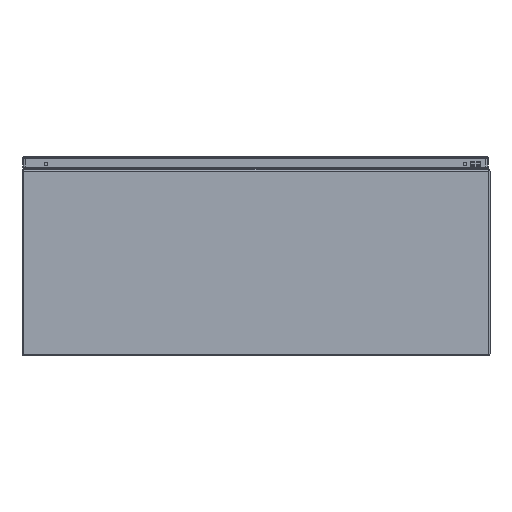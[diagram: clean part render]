
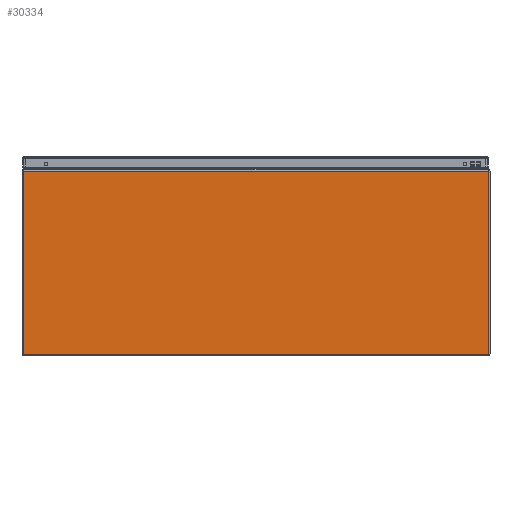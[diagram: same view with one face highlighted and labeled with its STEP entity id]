
A CAD part, front view. The second image highlights one B-rep face of the part: STEP entity #30334.
In plain terms, the highlighted planar face has unit normal (0, -1, 0).
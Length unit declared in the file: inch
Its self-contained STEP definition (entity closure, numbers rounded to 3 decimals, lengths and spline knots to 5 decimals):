
#75 = LINE ( 'NONE', #27523, #84 ) ;
#77 = LINE ( 'NONE', #27472, #86 ) ;
#79 = VECTOR ( 'NONE', #27492, 39.37008 ) ;
#80 = LINE ( 'NONE', #27514, #79 ) ;
#81 = VECTOR ( 'NONE', #27474, 39.37008 ) ;
#82 = LINE ( 'NONE', #27489, #81 ) ;
#84 = VECTOR ( 'NONE', #27469, 39.37008 ) ;
#86 = VECTOR ( 'NONE', #27463, 39.37008 ) ;
#6312 = FACE_OUTER_BOUND ( 'NONE', #7162, .T. ) ;
#7162 = EDGE_LOOP ( 'NONE', ( #19236, #19234, #19232, #19230 ) ) ;
#14422 = CARTESIAN_POINT ( 'NONE',  ( -14.921, 0., 0.08 ) ) ;
#14431 = CARTESIAN_POINT ( 'NONE',  ( 14.921, 0., 0.08 ) ) ;
#14440 = CARTESIAN_POINT ( 'NONE',  ( -14.921, 0., 11.838 ) ) ;
#14483 = CARTESIAN_POINT ( 'NONE',  ( 14.921, 0., 11.838 ) ) ;
#19230 = ORIENTED_EDGE ( 'NONE', *, *, #23660, .T. ) ;
#19232 = ORIENTED_EDGE ( 'NONE', *, *, #23656, .T. ) ;
#19234 = ORIENTED_EDGE ( 'NONE', *, *, #23658, .F. ) ;
#19236 = ORIENTED_EDGE ( 'NONE', *, *, #23659, .F. ) ;
#23656 = EDGE_CURVE ( 'NONE', #41222, #41161, #80, .T. ) ;
#23658 = EDGE_CURVE ( 'NONE', #41222, #41146, #82, .T. ) ;
#23659 = EDGE_CURVE ( 'NONE', #41146, #41131, #75, .T. ) ;
#23660 = EDGE_CURVE ( 'NONE', #41161, #41131, #77, .T. ) ;
#27463 = DIRECTION ( 'NONE',  ( 0., 0., -1. ) ) ;
#27469 = DIRECTION ( 'NONE',  ( -1., 0., 0. ) ) ;
#27472 = CARTESIAN_POINT ( 'NONE',  ( -14.921, 0., 12.569 ) ) ;
#27474 = DIRECTION ( 'NONE',  ( 0., 0., -1. ) ) ;
#27489 = CARTESIAN_POINT ( 'NONE',  ( 14.921, 0., 0.08 ) ) ;
#27492 = DIRECTION ( 'NONE',  ( -1., 0., 0. ) ) ;
#27514 = CARTESIAN_POINT ( 'NONE',  ( 15., 0., 11.838 ) ) ;
#27523 = CARTESIAN_POINT ( 'NONE',  ( 15., 0., 0.08 ) ) ;
#30334 = ADVANCED_FACE ( 'NONE', ( #6312 ), #45406, .T. ) ;
#41131 = VERTEX_POINT ( 'NONE', #14422 ) ;
#41146 = VERTEX_POINT ( 'NONE', #14431 ) ;
#41161 = VERTEX_POINT ( 'NONE', #14440 ) ;
#41222 = VERTEX_POINT ( 'NONE', #14483 ) ;
#43741 = AXIS2_PLACEMENT_3D ( 'NONE', #45480, #45500, #45499 ) ;
#45406 = PLANE ( 'NONE',  #43741 ) ;
#45480 = CARTESIAN_POINT ( 'NONE',  ( 15., 0., 0.08 ) ) ;
#45499 = DIRECTION ( 'NONE',  ( 0., 0., -1. ) ) ;
#45500 = DIRECTION ( 'NONE',  ( 0., -1., 0. ) ) ;
